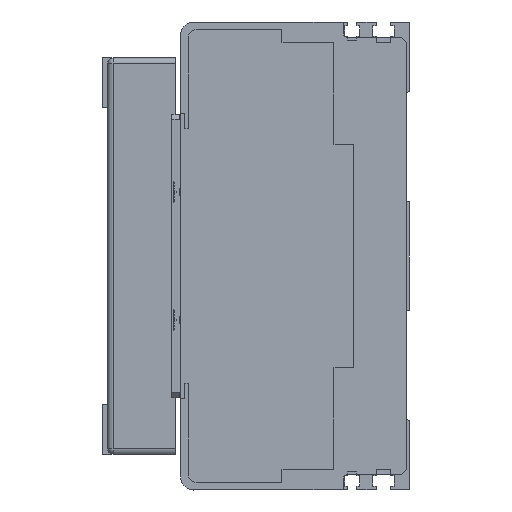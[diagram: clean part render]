
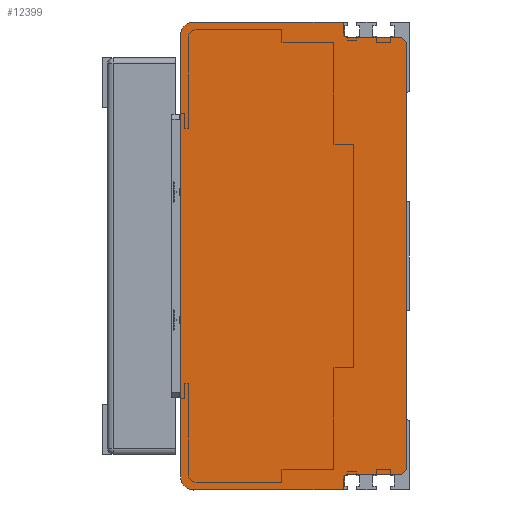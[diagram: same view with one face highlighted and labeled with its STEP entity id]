
A CAD part, left-side view. The second image highlights one B-rep face of the part: STEP entity #12399.
In plain terms, the highlighted planar face has unit normal (-1, 0, 0) as drawn and (0, 0, -1) by its records, which use the part's own axes.
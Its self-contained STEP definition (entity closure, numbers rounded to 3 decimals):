
#933=CIRCLE('',#13242,2.);
#934=CIRCLE('',#13243,5.);
#935=CIRCLE('',#13244,5.);
#936=CIRCLE('',#13245,2.);
#1236=FACE_OUTER_BOUND('',#1992,.T.);
#1992=EDGE_LOOP('',(#8412,#8413,#8414,#8415,#8416,#8417,#8418,#8419,#8420,
#8421,#8422,#8423,#8424,#8425));
#2877=LINE('',#17415,#4051);
#2878=LINE('',#17417,#4052);
#2879=LINE('',#17421,#4053);
#2880=LINE('',#17423,#4054);
#2881=LINE('',#17427,#4055);
#2882=LINE('',#17431,#4056);
#2883=LINE('',#17433,#4057);
#2884=LINE('',#17437,#4058);
#2885=LINE('',#17439,#4059);
#2886=LINE('',#17440,#4060);
#4051=VECTOR('',#14339,2.828);
#4052=VECTOR('',#14340,20.5);
#4053=VECTOR('',#14343,4.);
#4054=VECTOR('',#14344,57.5);
#4055=VECTOR('',#14347,170.);
#4056=VECTOR('',#14350,57.5);
#4057=VECTOR('',#14351,4.);
#4058=VECTOR('',#14354,20.5);
#4059=VECTOR('',#14355,2.828);
#4060=VECTOR('',#14356,164.);
#5253=VERTEX_POINT('',#17413);
#5254=VERTEX_POINT('',#17414);
#5255=VERTEX_POINT('',#17416);
#5256=VERTEX_POINT('',#17418);
#5257=VERTEX_POINT('',#17420);
#5258=VERTEX_POINT('',#17422);
#5259=VERTEX_POINT('',#17424);
#5260=VERTEX_POINT('',#17426);
#5261=VERTEX_POINT('',#17428);
#5262=VERTEX_POINT('',#17430);
#5263=VERTEX_POINT('',#17432);
#5264=VERTEX_POINT('',#17434);
#5265=VERTEX_POINT('',#17436);
#5266=VERTEX_POINT('',#17438);
#6520=EDGE_CURVE('',#5253,#5254,#2877,.T.);
#6521=EDGE_CURVE('',#5253,#5255,#2878,.T.);
#6522=EDGE_CURVE('',#5256,#5255,#933,.T.);
#6523=EDGE_CURVE('',#5256,#5257,#2879,.T.);
#6524=EDGE_CURVE('',#5257,#5258,#2880,.T.);
#6525=EDGE_CURVE('',#5258,#5259,#934,.T.);
#6526=EDGE_CURVE('',#5259,#5260,#2881,.T.);
#6527=EDGE_CURVE('',#5260,#5261,#935,.T.);
#6528=EDGE_CURVE('',#5261,#5262,#2882,.T.);
#6529=EDGE_CURVE('',#5262,#5263,#2883,.T.);
#6530=EDGE_CURVE('',#5264,#5263,#936,.T.);
#6531=EDGE_CURVE('',#5264,#5265,#2884,.T.);
#6532=EDGE_CURVE('',#5266,#5265,#2885,.T.);
#6533=EDGE_CURVE('',#5266,#5254,#2886,.T.);
#8412=ORIENTED_EDGE('',*,*,#6520,.F.);
#8413=ORIENTED_EDGE('',*,*,#6521,.T.);
#8414=ORIENTED_EDGE('',*,*,#6522,.F.);
#8415=ORIENTED_EDGE('',*,*,#6523,.T.);
#8416=ORIENTED_EDGE('',*,*,#6524,.T.);
#8417=ORIENTED_EDGE('',*,*,#6525,.T.);
#8418=ORIENTED_EDGE('',*,*,#6526,.T.);
#8419=ORIENTED_EDGE('',*,*,#6527,.T.);
#8420=ORIENTED_EDGE('',*,*,#6528,.T.);
#8421=ORIENTED_EDGE('',*,*,#6529,.T.);
#8422=ORIENTED_EDGE('',*,*,#6530,.F.);
#8423=ORIENTED_EDGE('',*,*,#6531,.T.);
#8424=ORIENTED_EDGE('',*,*,#6532,.F.);
#8425=ORIENTED_EDGE('',*,*,#6533,.T.);
#11958=PLANE('',#13241);
#12399=ADVANCED_FACE('',(#1236),#11958,.T.);
#13241=AXIS2_PLACEMENT_3D('',#17412,#14337,#14338);
#13242=AXIS2_PLACEMENT_3D('',#17419,#14341,#14342);
#13243=AXIS2_PLACEMENT_3D('',#17425,#14345,#14346);
#13244=AXIS2_PLACEMENT_3D('',#17429,#14348,#14349);
#13245=AXIS2_PLACEMENT_3D('',#17435,#14352,#14353);
#14337=DIRECTION('center_axis',(0.,0.,
-1.));
#14338=DIRECTION('ref_axis',(0.,-1.,0.));
#14339=DIRECTION('',(0.707,-0.707,0.));
#14340=DIRECTION('',(0.,1.,0.));
#14341=DIRECTION('center_axis',(0.,0.,
-1.));
#14342=DIRECTION('ref_axis',(0.707,0.707,0.));
#14343=DIRECTION('',(-1.,0.,0.));
#14344=DIRECTION('',(0.,1.,0.));
#14345=DIRECTION('center_axis',(0.,0.,
-1.));
#14346=DIRECTION('ref_axis',(-1.,0.,0.));
#14347=DIRECTION('',(1.,0.,0.));
#14348=DIRECTION('center_axis',(0.,0.,
-1.));
#14349=DIRECTION('ref_axis',(0.,1.,0.));
#14350=DIRECTION('',(0.,-1.,0.));
#14351=DIRECTION('',(-1.,0.,0.));
#14352=DIRECTION('center_axis',(0.,0.,
-1.));
#14353=DIRECTION('ref_axis',(-0.707,0.707,0.));
#14354=DIRECTION('',(0.,-1.,0.));
#14355=DIRECTION('',(0.707,0.707,0.));
#14356=DIRECTION('',(-1.,0.,0.));
#17412=CARTESIAN_POINT('Origin',(317.669,46.746,-906.483));
#17413=CARTESIAN_POINT('',(-91.,-80.,-906.483));
#17414=CARTESIAN_POINT('',(-89.,-82.,-906.483));
#17415=CARTESIAN_POINT('',(-20.019,-150.981,-906.483));
#17416=CARTESIAN_POINT('',(-91.,-59.5,-906.483));
#17417=CARTESIAN_POINT('',(-91.,-17.627,-906.483));
#17418=CARTESIAN_POINT('',(-93.,-57.5,-906.483));
#17419=CARTESIAN_POINT('Origin',(-93.,-59.5,-906.483));
#17420=CARTESIAN_POINT('',(-97.,-57.5,-906.483));
#17421=CARTESIAN_POINT('',(-91.,-57.5,-906.483));
#17422=CARTESIAN_POINT('',(-97.,0.,-906.483));
#17423=CARTESIAN_POINT('',(-97.,-57.5,-906.483));
#17424=CARTESIAN_POINT('',(-92.,5.,-906.483));
#17425=CARTESIAN_POINT('Origin',(-92.,0.,
-906.483));
#17426=CARTESIAN_POINT('',(78.,5.,-906.483));
#17427=CARTESIAN_POINT('',(-92.,5.,-906.483));
#17428=CARTESIAN_POINT('',(83.,0.,-906.483));
#17429=CARTESIAN_POINT('Origin',(78.,0.,
-906.483));
#17430=CARTESIAN_POINT('',(83.,-57.5,-906.483));
#17431=CARTESIAN_POINT('',(83.,0.,-906.483));
#17432=CARTESIAN_POINT('',(79.,-57.5,-906.483));
#17433=CARTESIAN_POINT('',(83.,-57.5,-906.483));
#17434=CARTESIAN_POINT('',(77.,-59.5,-906.483));
#17435=CARTESIAN_POINT('Origin',(79.,-59.5,-906.483));
#17436=CARTESIAN_POINT('',(77.,-80.,-906.483));
#17437=CARTESIAN_POINT('',(77.,-57.5,-906.483));
#17438=CARTESIAN_POINT('',(75.,-82.,-906.483));
#17439=CARTESIAN_POINT('',(168.354,11.354,-906.483));
#17440=CARTESIAN_POINT('',(81.,-82.,-906.483));
